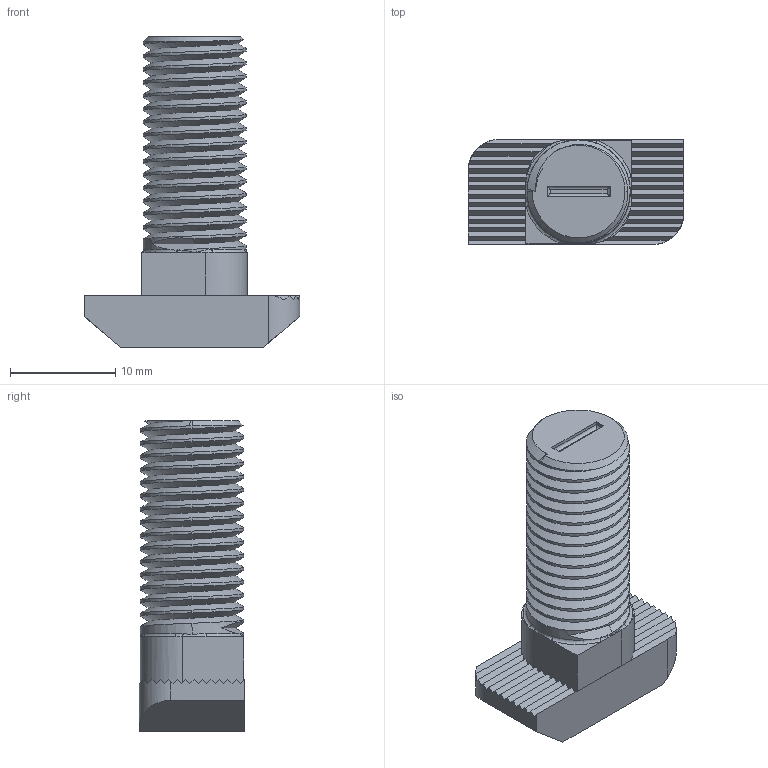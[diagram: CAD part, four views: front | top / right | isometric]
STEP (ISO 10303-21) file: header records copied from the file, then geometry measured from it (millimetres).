
FILE_DESCRIPTION (( 'STEP AP214' ), '1' );
FILE_NAME ('5520.STEP', '2025-03-05T20:42:07', ( 'Àëåêñåé' ), ( '' ), 'SwSTEP 2.0', 'SolidWorks 2022', '' );
FILE_SCHEMA (( 'AUTOMOTIVE_DESIGN' ));
Length unit declared in the file: millimetre
Products named in the file (1): 5520
Bounding box: 20.5 x 10 x 29.5 mm (x, y, z)
Volume: 2604.8 mm3; surface area: 1829.7 mm2
Topology: 1 solids, 1 shells, 131 faces, 372 edges, 240 vertices
Faces by surface type: plane 73, cylinder 41, bspline 10, torus 4, cone 3
Entity records: 6223 total; most frequent: CARTESIAN_POINT 3213, ORIENTED_EDGE 736, DIRECTION 502, EDGE_CURVE 368, VERTEX_POINT 240, LINE 204, VECTOR 204, AXIS2_PLACEMENT_3D 149
